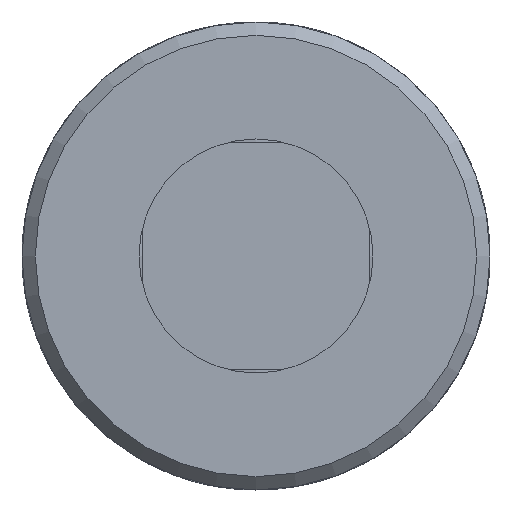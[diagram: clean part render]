
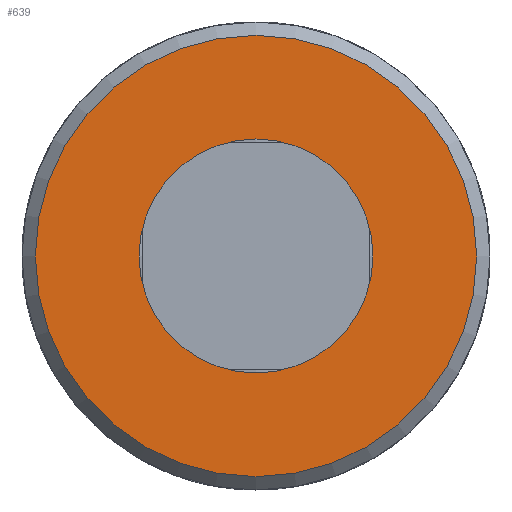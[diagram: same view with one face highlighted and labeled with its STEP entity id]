
A CAD part, front view. The second image highlights one B-rep face of the part: STEP entity #639.
In plain terms, the highlighted planar face has unit normal (0, -1, 0).
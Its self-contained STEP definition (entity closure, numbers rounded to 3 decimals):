
#123=PLANE('',#698);
#149=FACE_BOUND('',#233,.T.);
#176=FACE_OUTER_BOUND('',#232,.T.);
#232=EDGE_LOOP('',(#506));
#233=EDGE_LOOP('',(#507));
#277=CIRCLE('',#693,17.5);
#279=CIRCLE('',#696,33.);
#316=VERTEX_POINT('',#986);
#318=VERTEX_POINT('',#991);
#384=EDGE_CURVE('',#316,#316,#277,.T.);
#386=EDGE_CURVE('',#318,#318,#279,.T.);
#506=ORIENTED_EDGE('',*,*,#386,.F.);
#507=ORIENTED_EDGE('',*,*,#384,.T.);
#639=ADVANCED_FACE('',(#176,#149),#123,.F.);
#693=AXIS2_PLACEMENT_3D('',#987,#811,#812);
#696=AXIS2_PLACEMENT_3D('',#992,#817,#818);
#698=AXIS2_PLACEMENT_3D('',#1224,#825,#826);
#811=DIRECTION('center_axis',(0.,1.,0.));
#812=DIRECTION('ref_axis',(-1.,0.,0.));
#817=DIRECTION('center_axis',(0.,1.,0.));
#818=DIRECTION('ref_axis',(1.,0.,0.));
#825=DIRECTION('center_axis',(0.,1.,0.));
#826=DIRECTION('ref_axis',(0.,0.,1.));
#986=CARTESIAN_POINT('',(17.5,-87.,0.));
#987=CARTESIAN_POINT('Origin',(0.,-87.,0.));
#991=CARTESIAN_POINT('',(-33.,-87.,0.));
#992=CARTESIAN_POINT('Origin',(0.,-87.,0.));
#1224=CARTESIAN_POINT('Origin',(0.,-87.,0.));
